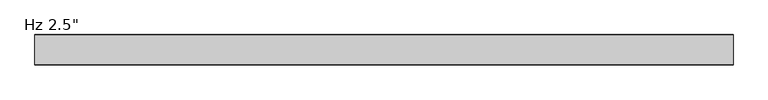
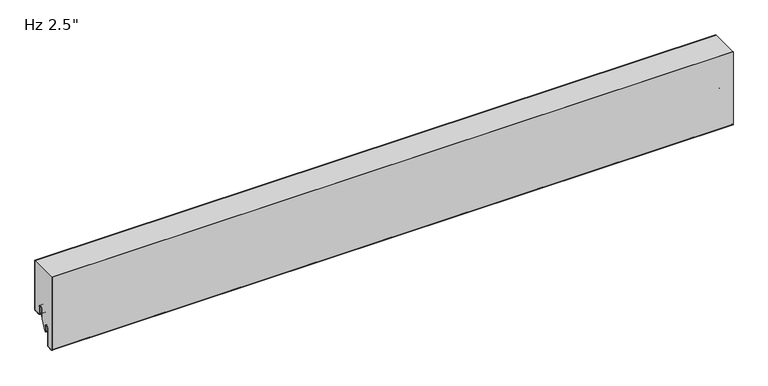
"""IFC4 building model written with IfcOpenShell, lengths in millimetres: plate geometry."""

from ifc_helpers import new_model, si_unit, point, frame, frame_2d, origin, place, context, project, spatial, polyline, circle_curve, trimmed, segment, composite_curve, outline, extrude, source, transform, mapped, element, save


def plate_4f4d566a(model_context):
    return source(origin(), model_context, "Body", "SweptSolid", [
        extrude(outline(composite_curve([segment(trimmed(circle_curve(frame_2d((-21.43125, 19.05)), 4.96875), [point((-16.4625, 19.05))], [point((-26.4, 19.05))], True, "CARTESIAN"), True, "CONTINUOUS"), segment(polyline([(-26.4, 19.05), (-26.4, -3.1323422), (-36.5326309, -23.01875), (-38.1, -23.01875), (-38.1, -13.5080174), (-38.89375, -13.5080174), (-38.6875, -11.9205174)]), True, "CONTINUOUS"), segment(trimmed(circle_curve(frame_2d((-43.65625, -11.9205174)), 4.96875), [point((-38.6875, -11.9205174))], [point((-48.625, -11.9205174))], True, "CARTESIAN"), True, "CONTINUOUS"), segment(polyline([(-48.625, -11.9205174), (-48.625, -50.1038221)]), True, "CONTINUOUS"), segment(trimmed(circle_curve(frame_2d((-50.00625, -50.1038221)), 1.38125), [point((-48.625, -50.1038221))], [point((-49.933961, -51.4831791))], False, "CARTESIAN"), True, "CONTINUOUS"), segment(polyline([(-49.933961, -51.4831791), (-61.046461, -52.0655606)]), True, "CONTINUOUS"), segment(trimmed(circle_curve(frame_2d((-61.11875, -50.6862035)), 1.38125), [point((-61.046461, -52.0655606))], [point((-62.5, -50.6862035))], False, "CARTESIAN"), True, "CONTINUOUS"), segment(polyline([(-62.5, -50.6862035), (-62.5, 113.4), (-1.0, 113.4), (-1.0, 3.175)]), True, "CONTINUOUS"), segment(trimmed(circle_curve(frame_2d((-2.38125, 3.175)), 1.38125), [point((-1.0, 3.175))], [point((-2.38125, 1.79375))], False, "CARTESIAN"), True, "CONTINUOUS"), segment(polyline([(-2.38125, 1.79375), (-15.08125, 1.79375)]), True, "CONTINUOUS"), segment(trimmed(circle_curve(frame_2d((-15.08125, 3.175)), 1.38125), [point((-15.08125, 1.79375))], [point((-16.4625, 3.175))], False, "CARTESIAN"), True, "CONTINUOUS"), segment(polyline([(-16.4625, 3.175), (-16.4625, 19.05)]), True, "CONTINUOUS")], self_intersect=False)), frame((-730.0, 0.0, 0.0), z_axis=(1.0, 0.0, 0.0), x_axis=(0.0, 1.0, 0.0)), (0.0, 0.0, 1.0), 1460.0),
        extrude(outline(composite_curve([segment(polyline([(-25.4, 0.79375), (-26.4, 0.79375), (-26.4, 19.05)]), True, "CONTINUOUS"), segment(trimmed(circle_curve(frame_2d((-21.43125, 19.05)), 4.96875), [point((-26.4, 19.05))], [point((-16.4625, 19.05))], False, "CARTESIAN"), True, "CONTINUOUS"), segment(polyline([(-16.4625, 19.05), (-16.4625, 3.175)]), True, "CONTINUOUS"), segment(trimmed(circle_curve(frame_2d((-15.08125, 3.175)), 1.38125), [point((-16.4625, 3.175))], [point((-15.08125, 1.79375))], True, "CARTESIAN"), True, "CONTINUOUS"), segment(polyline([(-15.08125, 1.79375), (-2.38125, 1.79375)]), True, "CONTINUOUS"), segment(trimmed(circle_curve(frame_2d((-2.38125, 3.175)), 1.38125), [point((-2.38125, 1.79375))], [point((-1.0, 3.175))], True, "CARTESIAN"), True, "CONTINUOUS"), segment(polyline([(-1.0, 3.175), (-1.0, 113.4), (0.0, 113.4), (0.0, 3.175)]), True, "CONTINUOUS"), segment(trimmed(circle_curve(frame_2d((-2.38125, 3.175)), 2.38125), [point((0.0, 3.175))], [point((-2.38125, 0.79375))], False, "CARTESIAN"), True, "CONTINUOUS"), segment(polyline([(-2.38125, 0.79375), (-15.08125, 0.79375)]), True, "CONTINUOUS"), segment(trimmed(circle_curve(frame_2d((-15.08125, 3.175)), 2.38125), [point((-15.08125, 0.79375))], [point((-17.4625, 3.175))], False, "CARTESIAN"), True, "CONTINUOUS"), segment(polyline([(-17.4625, 3.175), (-17.4625, 19.05)]), True, "CONTINUOUS"), segment(trimmed(circle_curve(frame_2d((-21.43125, 19.05)), 3.96875), [point((-17.4625, 19.05))], [point((-25.4, 19.05))], True, "CARTESIAN"), True, "CONTINUOUS"), segment(polyline([(-25.4, 19.05), (-25.4, 0.79375)]), True, "CONTINUOUS")], self_intersect=False)), frame((-730.0, 0.0, 0.0), z_axis=(1.0, 0.0, 0.0), x_axis=(0.0, 1.0, 0.0)), (0.0, 0.0, 1.0), 1460.0),
        extrude(outline(composite_curve([segment(trimmed(circle_curve(frame_2d((-38.89375, -23.2314549)), 0.79375), [point((-38.1, -23.2314549))], [point((-39.6875, -23.2314549))], False, "CARTESIAN"), True, "CONTINUOUS"), segment(polyline([(-39.6875, -23.2314549), (-39.6875, -11.9205174)]), True, "CONTINUOUS"), segment(trimmed(circle_curve(frame_2d((-43.65625, -11.9205174)), 3.96875), [point((-39.6875, -11.9205174))], [point((-47.625, -11.9205174))], True, "CARTESIAN"), True, "CONTINUOUS"), segment(polyline([(-47.625, -11.9205174), (-47.625, -50.1038221)]), True, "CONTINUOUS"), segment(trimmed(circle_curve(frame_2d((-50.00625, -50.1038221)), 2.38125), [point((-47.625, -50.1038221))], [point((-49.881625, -52.4818086))], False, "CARTESIAN"), True, "CONTINUOUS"), segment(polyline([(-49.881625, -52.4818086), (-60.994125, -53.0641901)]), True, "CONTINUOUS"), segment(trimmed(circle_curve(frame_2d((-61.11875, -50.6862035)), 2.38125), [point((-60.994125, -53.0641901))], [point((-63.5, -50.6862035))], False, "CARTESIAN"), True, "CONTINUOUS"), segment(polyline([(-63.5, -50.6862035), (-63.5, 113.4), (-62.5, 113.4), (-62.5, -50.6862035)]), True, "CONTINUOUS"), segment(trimmed(circle_curve(frame_2d((-61.11875, -50.6862035)), 1.38125), [point((-62.5, -50.6862035))], [point((-61.046461, -52.0655606))], True, "CARTESIAN"), True, "CONTINUOUS"), segment(polyline([(-61.046461, -52.0655606), (-49.933961, -51.4831791)]), True, "CONTINUOUS"), segment(trimmed(circle_curve(frame_2d((-50.00625, -50.1038221)), 1.38125), [point((-49.933961, -51.4831791))], [point((-48.625, -50.1038221))], True, "CARTESIAN"), True, "CONTINUOUS"), segment(polyline([(-48.625, -50.1038221), (-48.625, -11.9205174)]), True, "CONTINUOUS"), segment(trimmed(circle_curve(frame_2d((-43.65625, -11.9205174)), 4.96875), [point((-48.625, -11.9205174))], [point((-38.6875, -11.9205174))], False, "CARTESIAN"), True, "CONTINUOUS"), segment(polyline([(-38.6875, -11.9205174), (-38.89375, -13.5080174), (-38.1, -13.5080174), (-38.1, -23.2314549)]), True, "CONTINUOUS")], self_intersect=False)), frame((-730.0, 0.0, 0.0), z_axis=(1.0, 0.0, 0.0), x_axis=(0.0, 1.0, 0.0)), (0.0, 0.0, 1.0), 1460.0),
    ])


if __name__ == "__main__":
    model = new_model("IFC4")
    model_context = context("Model", 3, world=origin())
    ifc_project = project(units=[si_unit("LENGTHUNIT", "METRE", prefix="MILLI")], contexts=[model_context])
    site = spatial("IfcSite", under=ifc_project)
    building = spatial("IfcBuilding", under=site)
    placement = place(None, origin())
    plate_shape = plate_4f4d566a(model_context)
    element("IfcPlate", 1, ObjectType="KIP-30-DWTR-R19-CP-Hz-F : Hz 2.5\"", at=placement, inside=building, context=model_context, shape_type="MappedRepresentation", body=[
        mapped(plate_shape, transform((0.0, 0.0, 0.0), x_axis=(1.0, 0.0, 0.0), y_axis=(0.0, 1.0, 0.0), z_axis=(0.0, 0.0, 1.0))),
    ])
    save(model, "model.ifc")
